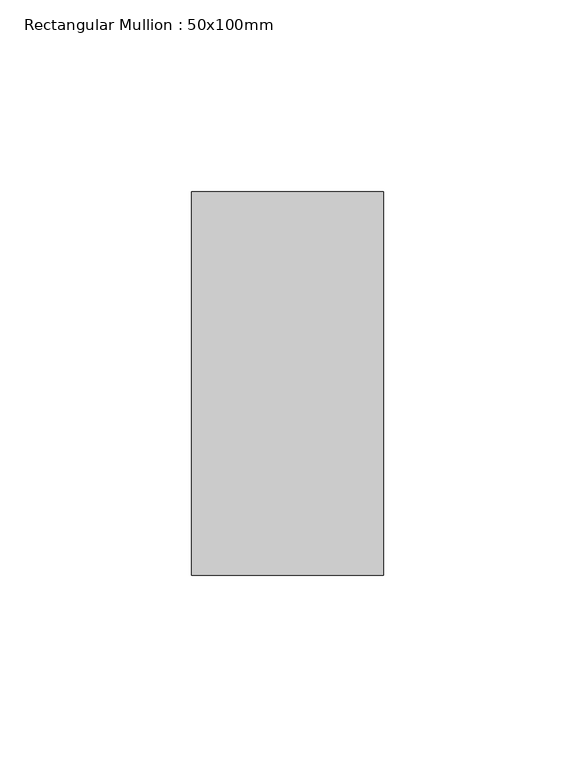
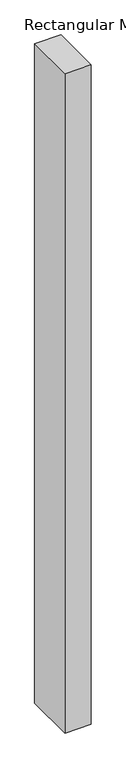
"""IFC4 building model written with IfcOpenShell, lengths in millimetres: member geometry, Rectangular Mullion : 50x100mm."""

from ifc_helpers import new_model, si_unit, frame, origin, place, context, project, spatial, polyline, outline, extrude, source, transform, mapped, element, save


def rectangular_mullion_50x100mm_f3e2bfe6(model_context):
    return source(origin(), model_context, "Body", "SweptSolid", [
        extrude(outline(polyline([(25.0, 50.0), (25.0, -50.0), (-25.0, -50.0), (-25.0, 50.0), (25.0, 50.0)])), frame((0.0, 0.0, -1330.0), z_axis=(0.0, 0.0, 1.0), x_axis=(1.0, 0.0, 0.0)), (0.0, 0.0, 1.0), 1330.0),
    ])


if __name__ == "__main__":
    model = new_model("IFC4")
    model_context = context("Model", 3, world=origin())
    ifc_project = project(units=[si_unit("LENGTHUNIT", "METRE", prefix="MILLI")], contexts=[model_context])
    site = spatial("IfcSite", under=ifc_project)
    building = spatial("IfcBuilding", under=site)
    placement = place(None, origin())
    rectangular_mullion_50x100mm_shape = rectangular_mullion_50x100mm_f3e2bfe6(model_context)
    element("IfcMember", 1, ObjectType="Rectangular Mullion : 50x100mm", at=placement, inside=building, context=model_context, shape_type="MappedRepresentation", body=[
        mapped(rectangular_mullion_50x100mm_shape, transform((0.0, 0.0, 0.0), x_axis=(1.0, 0.0, 0.0), y_axis=(0.0, 1.0, 0.0), z_axis=(0.0, 0.0, 1.0))),
    ])
    save(model, "model.ifc")
